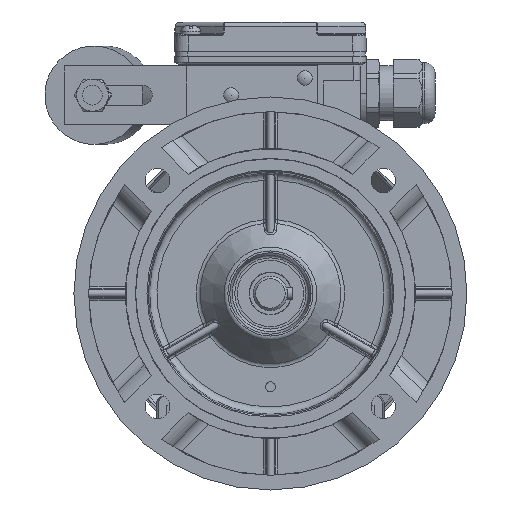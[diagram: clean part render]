
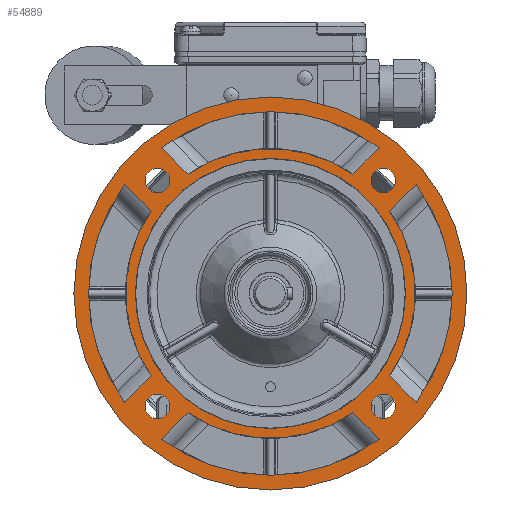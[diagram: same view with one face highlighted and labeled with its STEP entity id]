
A CAD part, front view. The second image highlights one B-rep face of the part: STEP entity #54889.
In plain terms, the highlighted planar face has unit normal (0, -1, 0).
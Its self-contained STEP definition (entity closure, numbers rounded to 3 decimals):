
#380=LINE('',#74381,#2913);
#381=LINE('',#74395,#2914);
#382=LINE('',#74404,#2915);
#383=LINE('',#74423,#2916);
#384=LINE('',#74435,#2917);
#385=LINE('',#74449,#2918);
#386=LINE('',#74475,#2919);
#387=LINE('',#74484,#2920);
#2913=VECTOR('',#61269,1000.);
#2914=VECTOR('',#61276,1000.);
#2915=VECTOR('',#61283,1000.);
#2916=VECTOR('',#61290,1000.);
#2917=VECTOR('',#61301,1000.);
#2918=VECTOR('',#61308,1000.);
#2919=VECTOR('',#61319,1000.);
#2920=VECTOR('',#61326,1000.);
#11823=ORIENTED_EDGE('',*,*,#22179,.F.);
#11824=ORIENTED_EDGE('',*,*,#22180,.F.);
#11825=ORIENTED_EDGE('',*,*,#22181,.F.);
#11826=ORIENTED_EDGE('',*,*,#22182,.F.);
#11827=ORIENTED_EDGE('',*,*,#20683,.F.);
#11828=ORIENTED_EDGE('',*,*,#20681,.F.);
#11829=ORIENTED_EDGE('',*,*,#20680,.T.);
#11830=ORIENTED_EDGE('',*,*,#20677,.T.);
#11831=ORIENTED_EDGE('',*,*,#20675,.F.);
#11832=ORIENTED_EDGE('',*,*,#20673,.T.);
#11833=ORIENTED_EDGE('',*,*,#20671,.T.);
#11834=ORIENTED_EDGE('',*,*,#20669,.F.);
#11835=ORIENTED_EDGE('',*,*,#20667,.F.);
#11836=ORIENTED_EDGE('',*,*,#20666,.F.);
#11837=ORIENTED_EDGE('',*,*,#20665,.T.);
#11838=ORIENTED_EDGE('',*,*,#20662,.T.);
#11839=ORIENTED_EDGE('',*,*,#20660,.F.);
#11840=ORIENTED_EDGE('',*,*,#20658,.F.);
#11841=ORIENTED_EDGE('',*,*,#20657,.T.);
#11842=ORIENTED_EDGE('',*,*,#20654,.T.);
#11843=ORIENTED_EDGE('',*,*,#20653,.F.);
#11844=ORIENTED_EDGE('',*,*,#22178,.T.);
#20653=EDGE_CURVE('',#26422,#26421,#380,.T.);
#20654=EDGE_CURVE('',#26423,#26421,#30171,.T.);
#20657=EDGE_CURVE('',#26424,#26423,#381,.T.);
#20658=EDGE_CURVE('',#26424,#26422,#30172,.T.);
#20660=EDGE_CURVE('',#26425,#26426,#382,.T.);
#20662=EDGE_CURVE('',#26427,#26426,#30173,.T.);
#20665=EDGE_CURVE('',#26428,#26427,#383,.T.);
#20666=EDGE_CURVE('',#26428,#26425,#30174,.T.);
#20667=EDGE_CURVE('',#26429,#26429,#30175,.T.);
#20669=EDGE_CURVE('',#26430,#26431,#384,.T.);
#20671=EDGE_CURVE('',#26432,#26431,#30176,.T.);
#20673=EDGE_CURVE('',#26433,#26432,#385,.T.);
#20675=EDGE_CURVE('',#26433,#26430,#30177,.T.);
#20677=EDGE_CURVE('',#26435,#26434,#30178,.T.);
#20680=EDGE_CURVE('',#26436,#26435,#386,.T.);
#20681=EDGE_CURVE('',#26436,#26437,#30179,.T.);
#20683=EDGE_CURVE('',#26437,#26434,#387,.T.);
#22178=EDGE_CURVE('',#27422,#27422,#30684,.T.);
#22179=EDGE_CURVE('',#27423,#27423,#30685,.T.);
#22180=EDGE_CURVE('',#27424,#27424,#30686,.T.);
#22181=EDGE_CURVE('',#27425,#27425,#30687,.T.);
#22182=EDGE_CURVE('',#27426,#27426,#30688,.T.);
#26421=VERTEX_POINT('',#74375);
#26422=VERTEX_POINT('',#74380);
#26423=VERTEX_POINT('',#74384);
#26424=VERTEX_POINT('',#74394);
#26425=VERTEX_POINT('',#74403);
#26426=VERTEX_POINT('',#74405);
#26427=VERTEX_POINT('',#74412);
#26428=VERTEX_POINT('',#74422);
#26429=VERTEX_POINT('',#74428);
#26430=VERTEX_POINT('',#74434);
#26431=VERTEX_POINT('',#74436);
#26432=VERTEX_POINT('',#74443);
#26433=VERTEX_POINT('',#74450);
#26434=VERTEX_POINT('',#74462);
#26435=VERTEX_POINT('',#74464);
#26436=VERTEX_POINT('',#74474);
#26437=VERTEX_POINT('',#74478);
#27422=VERTEX_POINT('',#77683);
#27423=VERTEX_POINT('',#77686);
#27424=VERTEX_POINT('',#77688);
#27425=VERTEX_POINT('',#77690);
#27426=VERTEX_POINT('',#77692);
#30171=CIRCLE('',#56805,59.);
#30172=CIRCLE('',#56808,74.);
#30173=CIRCLE('',#56811,59.);
#30174=CIRCLE('',#56814,74.);
#30175=CIRCLE('',#56816,55.);
#30176=CIRCLE('',#56819,59.);
#30177=CIRCLE('',#56822,74.);
#30178=CIRCLE('',#56824,59.);
#30179=CIRCLE('',#56827,74.);
#30684=CIRCLE('',#57842,80.);
#30685=CIRCLE('',#57844,5.);
#30686=CIRCLE('',#57845,5.);
#30687=CIRCLE('',#57846,5.);
#30688=CIRCLE('',#57847,5.);
#32646=EDGE_LOOP('',(#11823));
#32647=EDGE_LOOP('',(#11824));
#32648=EDGE_LOOP('',(#11825));
#32649=EDGE_LOOP('',(#11826));
#32650=EDGE_LOOP('',(#11827,#11828,#11829,#11830));
#32651=EDGE_LOOP('',(#11831,#11832,#11833,#11834));
#32652=EDGE_LOOP('',(#11835));
#32653=EDGE_LOOP('',(#11836,#11837,#11838,#11839));
#32654=EDGE_LOOP('',(#11840,#11841,#11842,#11843));
#32655=EDGE_LOOP('',(#11844));
#35344=FACE_BOUND('',#32646,.T.);
#35345=FACE_BOUND('',#32647,.T.);
#35346=FACE_BOUND('',#32648,.T.);
#35347=FACE_BOUND('',#32649,.T.);
#35348=FACE_BOUND('',#32650,.T.);
#35349=FACE_BOUND('',#32651,.T.);
#35350=FACE_BOUND('',#32652,.T.);
#35351=FACE_BOUND('',#32653,.T.);
#35352=FACE_BOUND('',#32654,.T.);
#35353=FACE_BOUND('',#32655,.T.);
#37456=PLANE('',#57843);
#54889=ADVANCED_FACE('',(#35344,#35345,#35346,#35347,#35348,#35349,#35350,
#35351,#35352,#35353),#37456,.F.);
#56805=AXIS2_PLACEMENT_3D('',#74383,#61272,#61273);
#56808=AXIS2_PLACEMENT_3D('',#74397,#61279,#61280);
#56811=AXIS2_PLACEMENT_3D('',#74411,#61286,#61287);
#56814=AXIS2_PLACEMENT_3D('',#74425,#61293,#61294);
#56816=AXIS2_PLACEMENT_3D('',#74427,#61297,#61298);
#56819=AXIS2_PLACEMENT_3D('',#74442,#61304,#61305);
#56822=AXIS2_PLACEMENT_3D('',#74456,#61311,#61312);
#56824=AXIS2_PLACEMENT_3D('',#74463,#61315,#61316);
#56827=AXIS2_PLACEMENT_3D('',#74477,#61322,#61323);
#57842=AXIS2_PLACEMENT_3D('',#77682,#64313,#64314);
#57843=AXIS2_PLACEMENT_3D('',#77684,#64315,#64316);
#57844=AXIS2_PLACEMENT_3D('',#77685,#64317,#64318);
#57845=AXIS2_PLACEMENT_3D('',#77687,#64319,#64320);
#57846=AXIS2_PLACEMENT_3D('',#77689,#64321,#64322);
#57847=AXIS2_PLACEMENT_3D('',#77691,#64323,#64324);
#61269=DIRECTION('',(-0.707,0.,-0.707));
#61272=DIRECTION('',(0.,-1.,0.));
#61273=DIRECTION('',(0.,0.,-1.));
#61276=DIRECTION('',(-0.707,0.,0.707));
#61279=DIRECTION('',(0.,-1.,0.));
#61280=DIRECTION('',(0.,0.,-1.));
#61283=DIRECTION('',(-0.707,0.,0.707));
#61286=DIRECTION('',(0.,-1.,0.));
#61287=DIRECTION('',(0.,0.,-1.));
#61290=DIRECTION('',(0.707,0.,0.707));
#61293=DIRECTION('',(0.,-1.,0.));
#61294=DIRECTION('',(0.,0.,-1.));
#61297=DIRECTION('',(0.,-1.,0.));
#61298=DIRECTION('',(0.,0.,-1.));
#61301=DIRECTION('',(0.707,0.,0.707));
#61304=DIRECTION('',(0.,-1.,0.));
#61305=DIRECTION('',(0.,0.,-1.));
#61308=DIRECTION('',(0.707,0.,-0.707));
#61311=DIRECTION('',(0.,-1.,0.));
#61312=DIRECTION('',(0.,0.,-1.));
#61315=DIRECTION('',(0.,-1.,0.));
#61316=DIRECTION('',(0.,0.,-1.));
#61319=DIRECTION('',(-0.707,0.,-0.707));
#61322=DIRECTION('',(0.,-1.,0.));
#61323=DIRECTION('',(0.,0.,-1.));
#61326=DIRECTION('',(0.707,0.,-0.707));
#64313=DIRECTION('',(0.,-1.,0.));
#64314=DIRECTION('',(0.,0.,-1.));
#64315=DIRECTION('',(0.,1.,0.));
#64316=DIRECTION('',(0.,0.,1.));
#64317=DIRECTION('',(0.,-1.,0.));
#64318=DIRECTION('',(1.,0.,0.));
#64319=DIRECTION('',(0.,-1.,0.));
#64320=DIRECTION('',(1.,0.,0.));
#64321=DIRECTION('',(0.,-1.,0.));
#64322=DIRECTION('',(1.,0.,0.));
#64323=DIRECTION('',(0.,-1.,0.));
#64324=DIRECTION('',(1.,0.,0.));
#74375=CARTESIAN_POINT('',(48.549,-41.,33.526));
#74380=CARTESIAN_POINT('',(59.295,-41.,44.273));
#74381=CARTESIAN_POINT('',(59.837,-41.,44.815));
#74383=CARTESIAN_POINT('',(0.,-41.,0.));
#74384=CARTESIAN_POINT('',(48.549,-41.,-33.526));
#74394=CARTESIAN_POINT('',(59.295,-41.,-44.273));
#74395=CARTESIAN_POINT('',(59.837,-41.,-44.815));
#74397=CARTESIAN_POINT('',(0.,-41.,0.));
#74403=CARTESIAN_POINT('',(44.273,-41.,-59.295));
#74404=CARTESIAN_POINT('',(44.815,-41.,-59.837));
#74405=CARTESIAN_POINT('',(33.526,-41.,-48.549));
#74411=CARTESIAN_POINT('',(0.,-41.,0.));
#74412=CARTESIAN_POINT('',(-33.526,-41.,-48.549));
#74422=CARTESIAN_POINT('',(-44.273,-41.,-59.295));
#74423=CARTESIAN_POINT('',(-44.815,-41.,-59.837));
#74425=CARTESIAN_POINT('',(0.,-41.,0.));
#74427=CARTESIAN_POINT('',(0.,-41.,0.));
#74428=CARTESIAN_POINT('',(0.,-41.,-55.));
#74434=CARTESIAN_POINT('',(-59.295,-41.,-44.273));
#74435=CARTESIAN_POINT('',(-59.837,-41.,-44.815));
#74436=CARTESIAN_POINT('',(-48.549,-41.,-33.526));
#74442=CARTESIAN_POINT('',(0.,-41.,0.));
#74443=CARTESIAN_POINT('',(-48.549,-41.,33.526));
#74449=CARTESIAN_POINT('',(-59.837,-41.,44.815));
#74450=CARTESIAN_POINT('',(-59.295,-41.,44.273));
#74456=CARTESIAN_POINT('',(0.,-41.,0.));
#74462=CARTESIAN_POINT('',(-33.526,-41.,48.549));
#74463=CARTESIAN_POINT('',(0.,-41.,0.));
#74464=CARTESIAN_POINT('',(33.526,-41.,48.549));
#74474=CARTESIAN_POINT('',(44.273,-41.,59.295));
#74475=CARTESIAN_POINT('',(44.815,-41.,59.837));
#74477=CARTESIAN_POINT('',(0.,-41.,0.));
#74478=CARTESIAN_POINT('',(-44.273,-41.,59.295));
#74484=CARTESIAN_POINT('',(-44.815,-41.,59.837));
#77682=CARTESIAN_POINT('',(0.,-41.,0.));
#77683=CARTESIAN_POINT('',(0.,-41.,-80.));
#77684=CARTESIAN_POINT('',(0.,-41.,55.));
#77685=CARTESIAN_POINT('',(45.962,-41.,45.962));
#77686=CARTESIAN_POINT('',(50.962,-41.,45.962));
#77687=CARTESIAN_POINT('',(45.962,-41.,-45.962));
#77688=CARTESIAN_POINT('',(50.962,-41.,-45.962));
#77689=CARTESIAN_POINT('',(-45.962,-41.,-45.962));
#77690=CARTESIAN_POINT('',(-40.962,-41.,-45.962));
#77691=CARTESIAN_POINT('',(-45.962,-41.,45.962));
#77692=CARTESIAN_POINT('',(-40.962,-41.,45.962));
